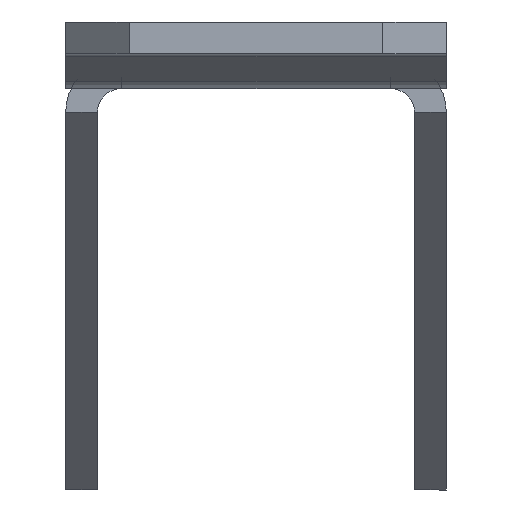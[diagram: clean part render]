
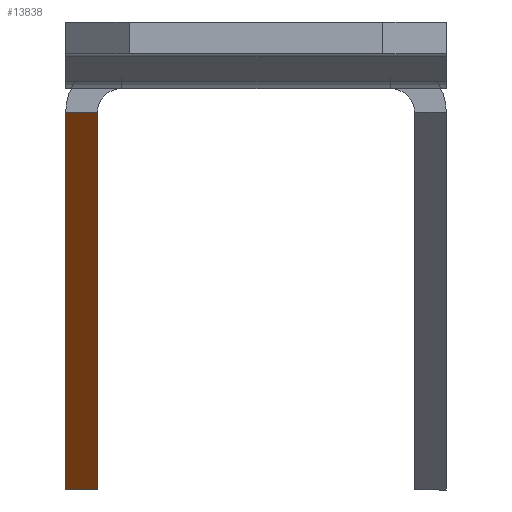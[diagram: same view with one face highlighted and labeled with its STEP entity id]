
A CAD part, left-side view. The second image highlights one B-rep face of the part: STEP entity #13838.
In plain terms, the highlighted planar face has unit normal (-0.707, 0, -0.707).
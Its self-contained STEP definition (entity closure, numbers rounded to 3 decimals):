
#9467 = LINE ( 'NONE', #10566, #9516 ) ;
#9514 = LINE ( 'NONE', #10565, #9518 ) ;
#9516 = VECTOR ( 'NONE', #10561, 1000. ) ;
#9517 = LINE ( 'NONE', #10572, #9520 ) ;
#9518 = VECTOR ( 'NONE', #10571, 1000. ) ;
#9519 = LINE ( 'NONE', #10574, #9522 ) ;
#9520 = VECTOR ( 'NONE', #10573, 1000. ) ;
#9522 = VECTOR ( 'NONE', #10575, 1000. ) ;
#10561 = DIRECTION ( 'NONE',  ( 0.707, 0., -0.707 ) ) ;
#10565 = CARTESIAN_POINT ( 'NONE',  ( -333.7, -63., -25.3 ) ) ;
#10566 = CARTESIAN_POINT ( 'NONE',  ( 1.75, 12., -360.75 ) ) ;
#10571 = DIRECTION ( 'NONE',  ( 0., 1., 0. ) ) ;
#10572 = CARTESIAN_POINT ( 'NONE',  ( 1.75, 10., -360.75 ) ) ;
#10573 = DIRECTION ( 'NONE',  ( 0.707, 0., -0.707 ) ) ;
#10574 = CARTESIAN_POINT ( 'NONE',  ( -357.5, 12., -1.5 ) ) ;
#10575 = DIRECTION ( 'NONE',  ( 0., 1., 0. ) ) ;
#11210 = CARTESIAN_POINT ( 'NONE',  ( -357.5, 12., -1.5 ) ) ;
#11211 = CARTESIAN_POINT ( 'NONE',  ( -333.7, 12., -25.3 ) ) ;
#11212 = CARTESIAN_POINT ( 'NONE',  ( -333.7, 10., -25.3 ) ) ;
#11215 = CARTESIAN_POINT ( 'NONE',  ( -357.5, 10., -1.5 ) ) ;
#13838 = ADVANCED_FACE ( 'NONE', ( #29351 ), #30501, .F. ) ;
#19067 = EDGE_LOOP ( 'NONE', ( #22319, #22307, #22306, #22311 ) ) ;
#21065 = EDGE_CURVE ( 'NONE', #21649, #21650, #9467, .T. ) ;
#21066 = EDGE_CURVE ( 'NONE', #21651, #21650, #9514, .T. ) ;
#21067 = EDGE_CURVE ( 'NONE', #21654, #21651, #9517, .T. ) ;
#21068 = EDGE_CURVE ( 'NONE', #21654, #21649, #9519, .T. ) ;
#21649 = VERTEX_POINT ( 'NONE', #11210 ) ;
#21650 = VERTEX_POINT ( 'NONE', #11211 ) ;
#21651 = VERTEX_POINT ( 'NONE', #11212 ) ;
#21654 = VERTEX_POINT ( 'NONE', #11215 ) ;
#22306 = ORIENTED_EDGE ( 'NONE', *, *, #21067, .F. ) ;
#22307 = ORIENTED_EDGE ( 'NONE', *, *, #21066, .F. ) ;
#22311 = ORIENTED_EDGE ( 'NONE', *, *, #21068, .T. ) ;
#22319 = ORIENTED_EDGE ( 'NONE', *, *, #21065, .T. ) ;
#27520 = AXIS2_PLACEMENT_3D ( 'NONE', #30503, #30508, #30509 ) ;
#29351 = FACE_OUTER_BOUND ( 'NONE', #19067, .T. ) ;
#30501 = PLANE ( 'NONE',  #27520 ) ;
#30503 = CARTESIAN_POINT ( 'NONE',  ( -357.5, -63., -1.5 ) ) ;
#30508 = DIRECTION ( 'NONE',  ( 0.707, 0., 0.707 ) ) ;
#30509 = DIRECTION ( 'NONE',  ( 0.707, 0., -0.707 ) ) ;
